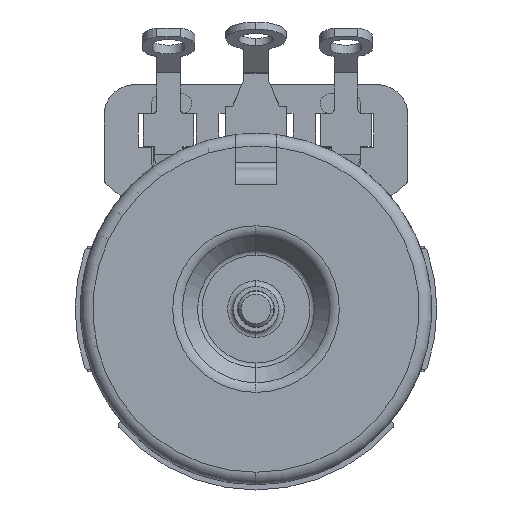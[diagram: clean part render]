
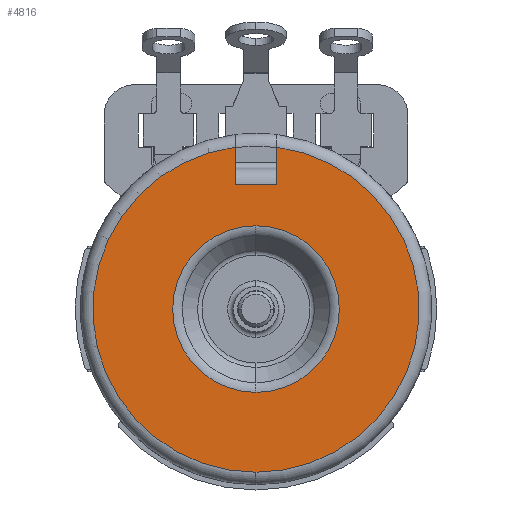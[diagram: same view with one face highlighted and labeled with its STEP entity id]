
A CAD part, front view. The second image highlights one B-rep face of the part: STEP entity #4816.
In plain terms, the highlighted planar face has unit normal (0, -1, 0).
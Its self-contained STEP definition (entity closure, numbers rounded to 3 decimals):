
#752 = DIRECTION ( 'NONE',  ( 0., 0., -1. ) ) ;
#801 = DIRECTION ( 'NONE',  ( 0., 1., 0. ) ) ;
#1008 = CARTESIAN_POINT ( 'NONE',  ( 0., 0., 0. ) ) ;
#1453 = ORIENTED_EDGE ( 'NONE', *, *, #7171, .T. ) ;
#1675 = CARTESIAN_POINT ( 'NONE',  ( 0., 0., -10.973 ) ) ;
#1775 = AXIS2_PLACEMENT_3D ( 'NONE', #24121, #801, #18365 ) ;
#2260 = CIRCLE ( 'NONE', #10800, 5.603 ) ;
#2294 = CARTESIAN_POINT ( 'NONE',  ( 0., 0., 0. ) ) ;
#3151 = EDGE_CURVE ( 'NONE', #15509, #14262, #20609, .T. ) ;
#3777 = DIRECTION ( 'NONE',  ( 0., -1., 0. ) ) ;
#4037 = FACE_BOUND ( 'NONE', #20235, .T. ) ;
#4777 = ORIENTED_EDGE ( 'NONE', *, *, #15805, .T. ) ;
#4816 = ADVANCED_FACE ( 'NONE', ( #17393, #4037 ), #17264, .T. ) ;
#5760 = ORIENTED_EDGE ( 'NONE', *, *, #14295, .F. ) ;
#6658 = CARTESIAN_POINT ( 'NONE',  ( 1.397, 0., 8.382 ) ) ;
#7061 = EDGE_LOOP ( 'NONE', ( #5760, #19263, #12468, #16951, #8121 ) ) ;
#7171 = EDGE_CURVE ( 'NONE', #25094, #22175, #18418, .T. ) ;
#8121 = ORIENTED_EDGE ( 'NONE', *, *, #3151, .T. ) ;
#8577 = AXIS2_PLACEMENT_3D ( 'NONE', #24129, #14572, #18768 ) ;
#8648 = DIRECTION ( 'NONE',  ( 0., 0., -1. ) ) ;
#8721 = EDGE_CURVE ( 'NONE', #17373, #14492, #15255, .T. ) ;
#9144 = VECTOR ( 'NONE', #20642, 1000. ) ;
#10567 = LINE ( 'NONE', #23949, #23816 ) ;
#10800 = AXIS2_PLACEMENT_3D ( 'NONE', #1008, #20377, #752 ) ;
#12468 = ORIENTED_EDGE ( 'NONE', *, *, #15857, .F. ) ;
#12722 = CARTESIAN_POINT ( 'NONE',  ( 1.397, 0., 10.884 ) ) ;
#12858 = CARTESIAN_POINT ( 'NONE',  ( 1.397, 0., 12.522 ) ) ;
#14262 = VERTEX_POINT ( 'NONE', #12722 ) ;
#14295 = EDGE_CURVE ( 'NONE', #17373, #14262, #16669, .T. ) ;
#14492 = VERTEX_POINT ( 'NONE', #17915 ) ;
#14572 = DIRECTION ( 'NONE',  ( 0., -1., 0. ) ) ;
#15255 = LINE ( 'NONE', #21006, #16091 ) ;
#15480 = DIRECTION ( 'NONE',  ( 0., 0., -1. ) ) ;
#15509 = VERTEX_POINT ( 'NONE', #1675 ) ;
#15805 = EDGE_CURVE ( 'NONE', #22175, #25094, #2260, .T. ) ;
#15857 = EDGE_CURVE ( 'NONE', #23746, #14492, #10567, .T. ) ;
#16091 = VECTOR ( 'NONE', #17287, 1000. ) ;
#16301 = CIRCLE ( 'NONE', #8577, 10.973 ) ;
#16669 = LINE ( 'NONE', #12858, #9144 ) ;
#16951 = ORIENTED_EDGE ( 'NONE', *, *, #22886, .T. ) ;
#16980 = DIRECTION ( 'NONE',  ( 0., -1., 0. ) ) ;
#17264 = PLANE ( 'NONE',  #18071 ) ;
#17287 = DIRECTION ( 'NONE',  ( -1., 0., 0. ) ) ;
#17309 = CARTESIAN_POINT ( 'NONE',  ( -1.397, 0., 10.884 ) ) ;
#17373 = VERTEX_POINT ( 'NONE', #6658 ) ;
#17393 = FACE_OUTER_BOUND ( 'NONE', #7061, .T. ) ;
#17815 = DIRECTION ( 'NONE',  ( 0., 0., -1. ) ) ;
#17915 = CARTESIAN_POINT ( 'NONE',  ( -1.397, 0., 8.382 ) ) ;
#18071 = AXIS2_PLACEMENT_3D ( 'NONE', #21229, #3777, #15480 ) ;
#18365 = DIRECTION ( 'NONE',  ( 0., 0., -1. ) ) ;
#18418 = CIRCLE ( 'NONE', #1775, 5.603 ) ;
#18768 = DIRECTION ( 'NONE',  ( 0., 0., -1. ) ) ;
#19263 = ORIENTED_EDGE ( 'NONE', *, *, #8721, .T. ) ;
#19783 = AXIS2_PLACEMENT_3D ( 'NONE', #2294, #16980, #17815 ) ;
#20235 = EDGE_LOOP ( 'NONE', ( #1453, #4777 ) ) ;
#20377 = DIRECTION ( 'NONE',  ( 0., 1., 0. ) ) ;
#20609 = CIRCLE ( 'NONE', #19783, 10.973 ) ;
#20642 = DIRECTION ( 'NONE',  ( 0., 0., 1. ) ) ;
#21006 = CARTESIAN_POINT ( 'NONE',  ( -1.397, 0., 8.382 ) ) ;
#21229 = CARTESIAN_POINT ( 'NONE',  ( -5.207, 0., 0. ) ) ;
#22175 = VERTEX_POINT ( 'NONE', #22199 ) ;
#22199 = CARTESIAN_POINT ( 'NONE',  ( 0., 0., 5.603 ) ) ;
#22886 = EDGE_CURVE ( 'NONE', #23746, #15509, #16301, .T. ) ;
#23746 = VERTEX_POINT ( 'NONE', #17309 ) ;
#23816 = VECTOR ( 'NONE', #8648, 1000. ) ;
#23949 = CARTESIAN_POINT ( 'NONE',  ( -1.397, 0., 12.522 ) ) ;
#24121 = CARTESIAN_POINT ( 'NONE',  ( 0., 0., 0. ) ) ;
#24129 = CARTESIAN_POINT ( 'NONE',  ( 0., 0., 0. ) ) ;
#24412 = CARTESIAN_POINT ( 'NONE',  ( 0., 0., -5.603 ) ) ;
#25094 = VERTEX_POINT ( 'NONE', #24412 ) ;
